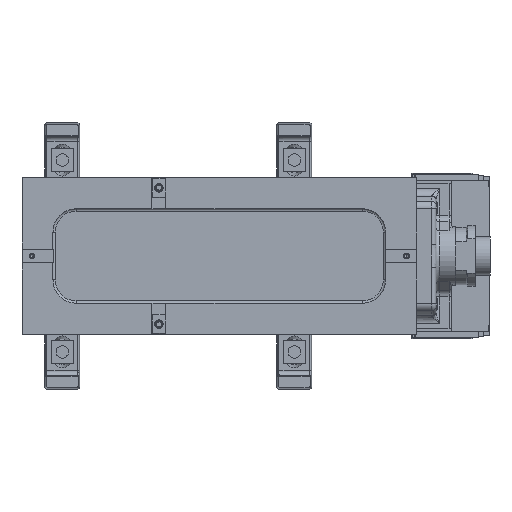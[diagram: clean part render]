
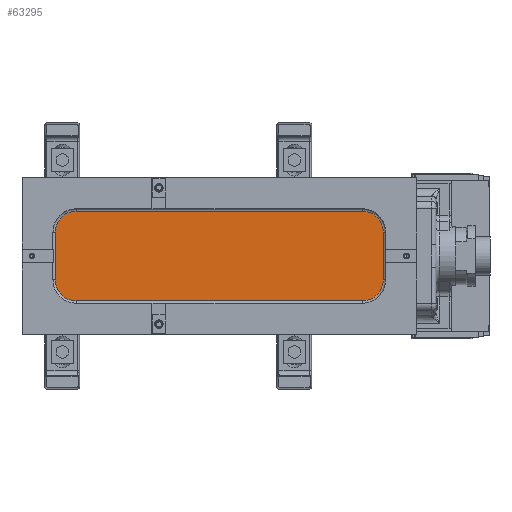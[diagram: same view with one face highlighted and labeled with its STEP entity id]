
A CAD part, front view. The second image highlights one B-rep face of the part: STEP entity #63295.
In plain terms, the highlighted planar face has unit normal (0, -1, 0).
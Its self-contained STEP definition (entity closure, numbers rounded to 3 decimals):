
#167 = DIRECTION ( 'NONE',  ( -1., 0., 0. ) ) ;
#220 = LINE ( 'NONE', #41794, #4203 ) ;
#1049 = LINE ( 'NONE', #53834, #42050 ) ;
#1325 = AXIS2_PLACEMENT_3D ( 'NONE', #52382, #67401, #53388 ) ;
#2782 = CARTESIAN_POINT ( 'NONE',  ( 263., -68., -58. ) ) ;
#4203 = VECTOR ( 'NONE', #10072, 1000. ) ;
#5092 = LINE ( 'NONE', #30018, #49669 ) ;
#7590 = CARTESIAN_POINT ( 'NONE',  ( -134., -68., 31. ) ) ;
#7953 = CARTESIAN_POINT ( 'NONE',  ( 263., -68., -31. ) ) ;
#8354 = VECTOR ( 'NONE', #167, 1000. ) ;
#8528 = EDGE_CURVE ( 'NONE', #32927, #32627, #28662, .T. ) ;
#9073 = AXIS2_PLACEMENT_3D ( 'NONE', #34112, #48754, #23551 ) ;
#10072 = DIRECTION ( 'NONE',  ( 0., 0., 1. ) ) ;
#10232 = CARTESIAN_POINT ( 'NONE',  ( 290., -68., 31. ) ) ;
#12486 = EDGE_CURVE ( 'NONE', #15745, #24752, #52420, .T. ) ;
#13214 = AXIS2_PLACEMENT_3D ( 'NONE', #33706, #49030, #48359 ) ;
#14003 = VERTEX_POINT ( 'NONE', #66686 ) ;
#14864 = CIRCLE ( 'NONE', #67120, 27. ) ;
#15564 = PLANE ( 'NONE',  #1325 ) ;
#15745 = VERTEX_POINT ( 'NONE', #10232 ) ;
#19041 = EDGE_CURVE ( 'NONE', #14003, #15745, #220, .T. ) ;
#19160 = ORIENTED_EDGE ( 'NONE', *, *, #12486, .T. ) ;
#21207 = CARTESIAN_POINT ( 'NONE',  ( -107., -68., -31. ) ) ;
#22135 = DIRECTION ( 'NONE',  ( 1., 0., 0. ) ) ;
#23551 = DIRECTION ( 'NONE',  ( 0., 0., 1. ) ) ;
#24752 = VERTEX_POINT ( 'NONE', #26650 ) ;
#24853 = ORIENTED_EDGE ( 'NONE', *, *, #42854, .T. ) ;
#25001 = VERTEX_POINT ( 'NONE', #2782 ) ;
#25226 = DIRECTION ( 'NONE',  ( 0., 0., -1. ) ) ;
#26650 = CARTESIAN_POINT ( 'NONE',  ( 263., -68., 58. ) ) ;
#27140 = FACE_OUTER_BOUND ( 'NONE', #54907, .T. ) ;
#27297 = EDGE_CURVE ( 'NONE', #25001, #14003, #14864, .T. ) ;
#27971 = CARTESIAN_POINT ( 'NONE',  ( -107., -68., 58. ) ) ;
#28662 = CIRCLE ( 'NONE', #9073, 27. ) ;
#28759 = DIRECTION ( 'NONE',  ( 0., -1., 0. ) ) ;
#30018 = CARTESIAN_POINT ( 'NONE',  ( -134., -68., -31. ) ) ;
#30635 = ORIENTED_EDGE ( 'NONE', *, *, #27297, .T. ) ;
#31455 = DIRECTION ( 'NONE',  ( 0., -1., 0. ) ) ;
#32011 = VERTEX_POINT ( 'NONE', #47592 ) ;
#32627 = VERTEX_POINT ( 'NONE', #7590 ) ;
#32927 = VERTEX_POINT ( 'NONE', #37900 ) ;
#33706 = CARTESIAN_POINT ( 'NONE',  ( 263., -68., 31. ) ) ;
#34112 = CARTESIAN_POINT ( 'NONE',  ( -107., -68., 31. ) ) ;
#34910 = ORIENTED_EDGE ( 'NONE', *, *, #51973, .T. ) ;
#35592 = ORIENTED_EDGE ( 'NONE', *, *, #19041, .T. ) ;
#36229 = DIRECTION ( 'NONE',  ( 0., 0., 1. ) ) ;
#36990 = LINE ( 'NONE', #27971, #8354 ) ;
#37900 = CARTESIAN_POINT ( 'NONE',  ( -107., -68., 58. ) ) ;
#38657 = DIRECTION ( 'NONE',  ( 0., 0., 1. ) ) ;
#39496 = EDGE_CURVE ( 'NONE', #32627, #32011, #5092, .T. ) ;
#39506 = EDGE_CURVE ( 'NONE', #59670, #25001, #1049, .T. ) ;
#41794 = CARTESIAN_POINT ( 'NONE',  ( 290., -68., 31. ) ) ;
#42050 = VECTOR ( 'NONE', #22135, 1000. ) ;
#42854 = EDGE_CURVE ( 'NONE', #32011, #59670, #50992, .T. ) ;
#46033 = ORIENTED_EDGE ( 'NONE', *, *, #39496, .T. ) ;
#47592 = CARTESIAN_POINT ( 'NONE',  ( -134., -68., -31. ) ) ;
#48359 = DIRECTION ( 'NONE',  ( 0., 0., 1. ) ) ;
#48754 = DIRECTION ( 'NONE',  ( 0., -1., 0. ) ) ;
#49030 = DIRECTION ( 'NONE',  ( 0., -1., 0. ) ) ;
#49669 = VECTOR ( 'NONE', #25226, 1000. ) ;
#50992 = CIRCLE ( 'NONE', #53200, 27. ) ;
#51973 = EDGE_CURVE ( 'NONE', #24752, #32927, #36990, .T. ) ;
#52382 = CARTESIAN_POINT ( 'NONE',  ( 263., -68., 31. ) ) ;
#52420 = CIRCLE ( 'NONE', #13214, 27. ) ;
#53200 = AXIS2_PLACEMENT_3D ( 'NONE', #21207, #31455, #36229 ) ;
#53388 = DIRECTION ( 'NONE',  ( 0., 0., 1. ) ) ;
#53834 = CARTESIAN_POINT ( 'NONE',  ( 263., -68., -58. ) ) ;
#54907 = EDGE_LOOP ( 'NONE', ( #30635, #35592, #19160, #34910, #62566, #46033, #24853, #60554 ) ) ;
#59670 = VERTEX_POINT ( 'NONE', #60561 ) ;
#60554 = ORIENTED_EDGE ( 'NONE', *, *, #39506, .T. ) ;
#60561 = CARTESIAN_POINT ( 'NONE',  ( -107., -68., -58. ) ) ;
#62566 = ORIENTED_EDGE ( 'NONE', *, *, #8528, .T. ) ;
#63295 = ADVANCED_FACE ( 'NONE', ( #27140 ), #15564, .F. ) ;
#66686 = CARTESIAN_POINT ( 'NONE',  ( 290., -68., -31. ) ) ;
#67120 = AXIS2_PLACEMENT_3D ( 'NONE', #7953, #28759, #38657 ) ;
#67401 = DIRECTION ( 'NONE',  ( 0., 1., 0. ) ) ;
